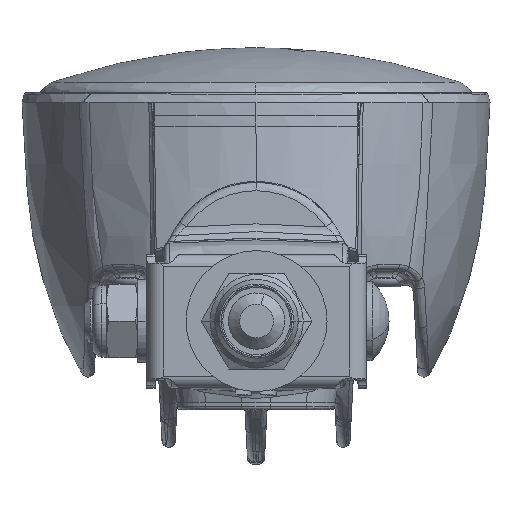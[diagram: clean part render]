
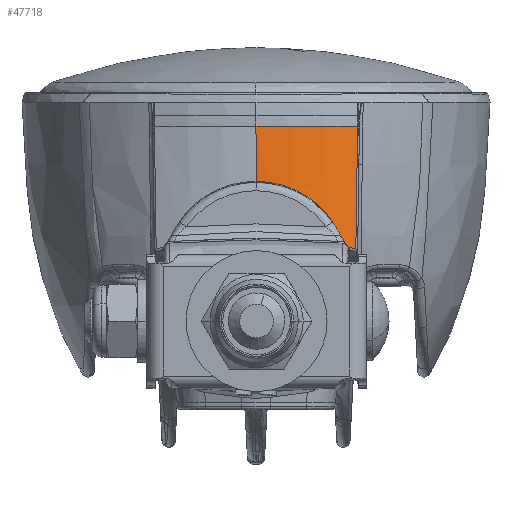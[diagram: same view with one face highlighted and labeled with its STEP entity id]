
A CAD part, front view. The second image highlights one B-rep face of the part: STEP entity #47718.
In plain terms, the highlighted free-form (B-spline) face has degree [5, 2] with [9, 3] control points.
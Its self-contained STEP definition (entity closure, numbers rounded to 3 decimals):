
#46378=CARTESIAN_POINT('Vertex',(16.155,-41.58,0.635)) ;
#46387=CARTESIAN_POINT('Vertex',(16.677,-41.385,0.798)) ;
#46391=CARTESIAN_POINT('Control Point',(16.155,-41.58,0.635)) ;
#46392=CARTESIAN_POINT('Control Point',(16.168,-41.575,0.647)) ;
#46393=CARTESIAN_POINT('Control Point',(16.18,-41.569,0.659)) ;
#46394=CARTESIAN_POINT('Control Point',(16.194,-41.563,0.67)) ;
#46395=CARTESIAN_POINT('Control Point',(16.234,-41.547,0.702)) ;
#46396=CARTESIAN_POINT('Control Point',(16.276,-41.529,0.729)) ;
#46397=CARTESIAN_POINT('Control Point',(16.306,-41.518,0.744)) ;
#46398=CARTESIAN_POINT('Control Point',(16.365,-41.495,0.771)) ;
#46399=CARTESIAN_POINT('Control Point',(16.427,-41.472,0.788)) ;
#46400=CARTESIAN_POINT('Control Point',(16.458,-41.46,0.795)) ;
#46401=CARTESIAN_POINT('Control Point',(16.52,-41.438,0.805)) ;
#46402=CARTESIAN_POINT('Control Point',(16.583,-41.416,0.806)) ;
#46403=CARTESIAN_POINT('Control Point',(16.615,-41.405,0.805)) ;
#46404=CARTESIAN_POINT('Control Point',(16.646,-41.395,0.802)) ;
#46405=CARTESIAN_POINT('Control Point',(16.677,-41.385,0.798)) ;
#46663=CARTESIAN_POINT('Control Point',(15.98,-41.617,0.828)) ;
#46664=CARTESIAN_POINT('Control Point',(16.019,-41.608,0.792)) ;
#46665=CARTESIAN_POINT('Control Point',(16.055,-41.6,0.755)) ;
#46666=CARTESIAN_POINT('Control Point',(16.091,-41.593,0.717)) ;
#46667=CARTESIAN_POINT('Control Point',(16.124,-41.586,0.676)) ;
#46668=CARTESIAN_POINT('Control Point',(16.155,-41.58,0.635)) ;
#46669=CARTESIAN_POINT('Vertex',(15.98,-41.617,0.828)) ;
#47517=CARTESIAN_POINT('Vertex',(17.707,-41.035,0.633)) ;
#47521=CARTESIAN_POINT('Control Point',(16.677,-41.385,0.798)) ;
#47522=CARTESIAN_POINT('Control Point',(16.884,-41.317,0.767)) ;
#47523=CARTESIAN_POINT('Control Point',(17.091,-41.248,0.735)) ;
#47524=CARTESIAN_POINT('Control Point',(17.297,-41.177,0.702)) ;
#47525=CARTESIAN_POINT('Control Point',(17.502,-41.107,0.668)) ;
#47526=CARTESIAN_POINT('Control Point',(17.707,-41.035,0.633)) ;
#47631=CARTESIAN_POINT('Control Point',(0.,-41.94,22.363)) ;
#47632=CARTESIAN_POINT('Control Point',(0.,-43.082,11.498)) ;
#47633=CARTESIAN_POINT('Control Point',(0.,-44.224,0.633)) ;
#47634=CARTESIAN_POINT('Control Point',(2.307,-41.935,22.363)) ;
#47635=CARTESIAN_POINT('Control Point',(2.366,-43.077,11.498)) ;
#47636=CARTESIAN_POINT('Control Point',(2.425,-44.219,0.633)) ;
#47637=CARTESIAN_POINT('Control Point',(4.611,-41.794,22.363)) ;
#47638=CARTESIAN_POINT('Control Point',(4.721,-42.932,11.498)) ;
#47639=CARTESIAN_POINT('Control Point',(4.832,-44.071,0.633)) ;
#47640=CARTESIAN_POINT('Control Point',(6.904,-41.518,22.363)) ;
#47641=CARTESIAN_POINT('Control Point',(7.067,-42.65,11.498)) ;
#47642=CARTESIAN_POINT('Control Point',(7.231,-43.783,0.633)) ;
#47643=CARTESIAN_POINT('Control Point',(10.546,-40.861,22.363)) ;
#47644=CARTESIAN_POINT('Control Point',(10.794,-41.978,11.498)) ;
#47645=CARTESIAN_POINT('Control Point',(11.042,-43.095,0.633)) ;
#47646=CARTESIAN_POINT('Control Point',(14.106,-39.866,22.363)) ;
#47647=CARTESIAN_POINT('Control Point',(14.437,-40.96,11.498)) ;
#47648=CARTESIAN_POINT('Control Point',(14.767,-42.054,0.633)) ;
#47649=CARTESIAN_POINT('Control Point',(15.428,-39.446,22.363)) ;
#47650=CARTESIAN_POINT('Control Point',(15.789,-40.53,11.498)) ;
#47651=CARTESIAN_POINT('Control Point',(16.151,-41.614,0.633)) ;
#47652=CARTESIAN_POINT('Control Point',(16.734,-38.98,22.363)) ;
#47653=CARTESIAN_POINT('Control Point',(17.126,-40.053,11.498)) ;
#47654=CARTESIAN_POINT('Control Point',(17.518,-41.126,0.633)) ;
#47655=CARTESIAN_POINT('Control Point',(18.022,-38.468,22.363)) ;
#47656=CARTESIAN_POINT('Control Point',(18.444,-39.529,11.498)) ;
#47657=CARTESIAN_POINT('Control Point',(18.865,-40.59,0.633)) ;
#47659=CARTESIAN_POINT('Control Point',(6.587,-42.664,11.213)) ;
#47660=CARTESIAN_POINT('Control Point',(5.04,-42.8,11.894)) ;
#47661=CARTESIAN_POINT('Control Point',(3.391,-42.909,12.347)) ;
#47662=CARTESIAN_POINT('Control Point',(1.697,-42.966,12.571)) ;
#47663=CARTESIAN_POINT('Control Point',(0.,-42.97,12.571)) ;
#47664=CARTESIAN_POINT('Vertex',(6.587,-42.664,11.213)) ;
#47666=CARTESIAN_POINT('Vertex',(0.,-42.97,12.571)) ;
#47670=CARTESIAN_POINT('Control Point',(15.711,-41.66,1.237)) ;
#47671=CARTESIAN_POINT('Control Point',(14.804,-41.663,3.863)) ;
#47672=CARTESIAN_POINT('Control Point',(13.371,-41.839,6.306)) ;
#47673=CARTESIAN_POINT('Control Point',(11.451,-42.14,8.428)) ;
#47674=CARTESIAN_POINT('Control Point',(9.139,-42.439,10.09)) ;
#47675=CARTESIAN_POINT('Control Point',(6.587,-42.664,11.213)) ;
#47676=CARTESIAN_POINT('Vertex',(15.711,-41.66,1.237)) ;
#47680=CARTESIAN_POINT('Control Point',(15.711,-41.66,1.237)) ;
#47681=CARTESIAN_POINT('Control Point',(15.764,-41.66,1.081)) ;
#47682=CARTESIAN_POINT('Control Point',(15.859,-41.645,0.939)) ;
#47683=CARTESIAN_POINT('Control Point',(15.98,-41.617,0.828)) ;
#47686=CARTESIAN_POINT('Control Point',(17.707,-41.035,0.633)) ;
#47687=CARTESIAN_POINT('Control Point',(17.812,-40.184,7.877)) ;
#47688=CARTESIAN_POINT('Control Point',(17.917,-39.329,15.121)) ;
#47689=CARTESIAN_POINT('Control Point',(18.022,-38.468,22.363)) ;
#47690=CARTESIAN_POINT('Vertex',(18.022,-38.468,22.363)) ;
#47694=CARTESIAN_POINT('Control Point',(18.022,-38.468,22.363)) ;
#47695=CARTESIAN_POINT('Control Point',(13.731,-40.174,22.363)) ;
#47696=CARTESIAN_POINT('Control Point',(9.22,-41.34,22.363)) ;
#47697=CARTESIAN_POINT('Control Point',(4.615,-41.931,22.363)) ;
#47698=CARTESIAN_POINT('Control Point',(0.,-41.94,22.363)) ;
#47699=CARTESIAN_POINT('Vertex',(0.,-41.94,22.363)) ;
#47703=CARTESIAN_POINT('Control Point',(0.,-41.94,22.363)) ;
#47704=CARTESIAN_POINT('Control Point',(0.,-42.455,17.467)) ;
#47705=CARTESIAN_POINT('Control Point',(0.,-42.97,12.571)) ;
#47708=ORIENTED_EDGE('',*,*,#47668,.F.) ;
#47709=ORIENTED_EDGE('',*,*,#47678,.F.) ;
#47710=ORIENTED_EDGE('',*,*,#47684,.F.) ;
#47711=ORIENTED_EDGE('',*,*,#46671,.F.) ;
#47712=ORIENTED_EDGE('',*,*,#46406,.F.) ;
#47713=ORIENTED_EDGE('',*,*,#47527,.F.) ;
#47714=ORIENTED_EDGE('',*,*,#47692,.F.) ;
#47715=ORIENTED_EDGE('',*,*,#47701,.T.) ;
#47716=ORIENTED_EDGE('',*,*,#47706,.T.) ;
#47718=ADVANCED_FACE('Housing_gr',(#47717),#47630,.F.) ;
#46390=B_SPLINE_CURVE_WITH_KNOTS('',5,(#46391,#46392,#46393,#46394,#46395,#46396,#46397,#46398,#46399,#46400,#46401,#46402,#46403,#46404,#46405),.UNSPECIFIED.,.F.,.U.,(6,3,3,3,6),(0.802,0.893,1.068,1.237,1.414),.UNSPECIFIED.) ;
#46662=B_SPLINE_CURVE_WITH_KNOTS('',5,(#46663,#46664,#46665,#46666,#46667,#46668),.UNSPECIFIED.,.F.,.U.,(6,6),(0.,0.366),.UNSPECIFIED.) ;
#47520=B_SPLINE_CURVE_WITH_KNOTS('',5,(#47521,#47522,#47523,#47524,#47525,#47526),.UNSPECIFIED.,.F.,.U.,(6,6),(28.951,30.469),.UNSPECIFIED.) ;
#47658=B_SPLINE_CURVE_WITH_KNOTS('',4,(#47659,#47660,#47661,#47662,#47663),.UNSPECIFIED.,.F.,.U.,(5,5),(0.,9.429),.UNSPECIFIED.) ;
#47669=B_SPLINE_CURVE_WITH_KNOTS('',5,(#47670,#47671,#47672,#47673,#47674,#47675),.UNSPECIFIED.,.F.,.U.,(6,6),(31.775,116.176),.UNSPECIFIED.) ;
#47679=B_SPLINE_CURVE_WITH_KNOTS('',3,(#47680,#47681,#47682,#47683),.UNSPECIFIED.,.F.,.U.,(4,4),(26.98,27.765),.UNSPECIFIED.) ;
#47685=B_SPLINE_CURVE_WITH_KNOTS('',3,(#47686,#47687,#47688,#47689),.UNSPECIFIED.,.F.,.U.,(4,4),(11.537,42.483),.UNSPECIFIED.) ;
#47693=B_SPLINE_CURVE_WITH_KNOTS('',4,(#47694,#47695,#47696,#47697,#47698),.UNSPECIFIED.,.F.,.U.,(5,5),(3.838,30.12),.UNSPECIFIED.) ;
#47702=B_SPLINE_CURVE_WITH_KNOTS('',2,(#47703,#47704,#47705),.UNSPECIFIED.,.F.,.U.,(3,3),(-13.755,-3.909),.UNSPECIFIED.) ;
#47630=B_SPLINE_SURFACE_WITH_KNOTS('',5,2,((#47631,#47632,#47633),(#47634,#47635,#47636),(#47637,#47638,#47639),(#47640,#47641,#47642),(#47643,#47644,#47645),(#47646,#47647,#47648),(#47649,#47650,#47651),(#47652,#47653,#47654),(#47655,#47656,#47657)),.UNSPECIFIED.,.F.,.F.,.U.,(6,3,6),(3,3),(0.,11.612,18.584),(-13.755,8.094),.UNSPECIFIED.) ;
#46406=EDGE_CURVE('',#46388,#46379,#46390,.F.) ;
#46671=EDGE_CURVE('',#46379,#46670,#46662,.F.) ;
#47527=EDGE_CURVE('',#47518,#46388,#47520,.F.) ;
#47668=EDGE_CURVE('',#47665,#47667,#47658,.T.) ;
#47678=EDGE_CURVE('',#47677,#47665,#47669,.T.) ;
#47684=EDGE_CURVE('',#46670,#47677,#47679,.F.) ;
#47692=EDGE_CURVE('',#47691,#47518,#47685,.F.) ;
#47701=EDGE_CURVE('',#47691,#47700,#47693,.T.) ;
#47706=EDGE_CURVE('',#47700,#47667,#47702,.T.) ;
#47707=EDGE_LOOP('',(#47708,#47709,#47710,#47711,#47712,#47713,#47714,#47715,#47716)) ;
#47717=FACE_OUTER_BOUND('',#47707,.T.) ;
#46379=VERTEX_POINT('',#46378) ;
#46388=VERTEX_POINT('',#46387) ;
#46670=VERTEX_POINT('',#46669) ;
#47518=VERTEX_POINT('',#47517) ;
#47665=VERTEX_POINT('',#47664) ;
#47667=VERTEX_POINT('',#47666) ;
#47677=VERTEX_POINT('',#47676) ;
#47691=VERTEX_POINT('',#47690) ;
#47700=VERTEX_POINT('',#47699) ;
